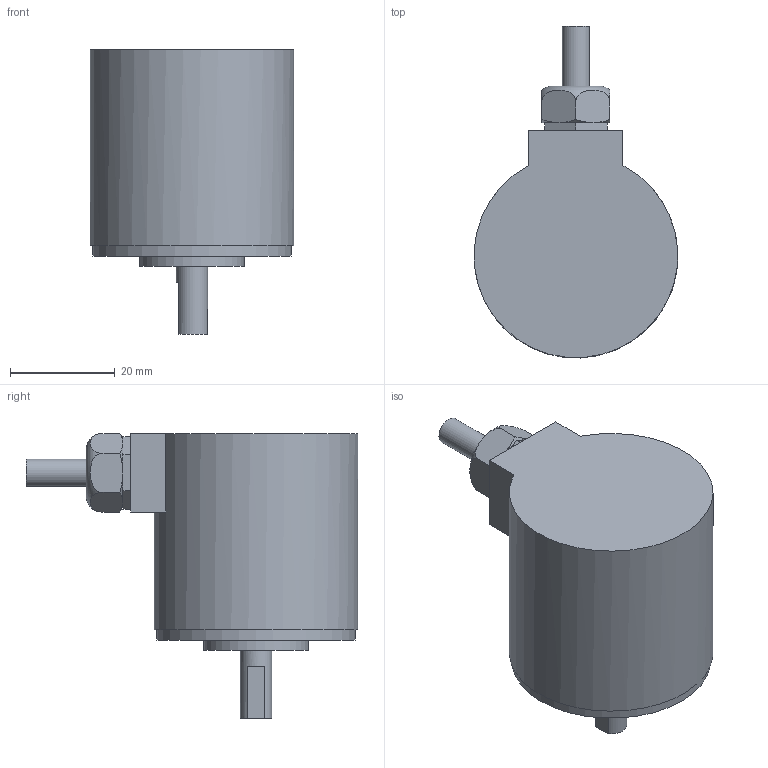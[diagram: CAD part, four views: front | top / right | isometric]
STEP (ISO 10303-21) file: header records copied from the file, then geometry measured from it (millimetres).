
FILE_DESCRIPTION(('OVF-2MC-600'),'2;1');
FILE_NAME('C:\Users\user\Documents\Inventor\配布用外径データ\OVF-2MC-600.stp','2019-05-09T11:15:37',('Nemicon Corp.'),('Nemicon Corp.'),'Autodesk Inventor 2011','Autodesk Inventor 2011','');
FILE_SCHEMA(('AUTOMOTIVE_DESIGN { 1 0 10303 214 1 1 1 1 }'));
Length unit declared in the file: millimetre
Products named in the file (1): OVF-2MC-600
Bounding box: 38.96 x 63.48 x 54.51 mm (x, y, z)
Volume: 50789.9 mm3; surface area: 8678.5 mm2
Topology: 1 solids, 1 shells, 55 faces, 128 edges, 80 vertices
Faces by surface type: plane 37, cone 9, cylinder 8, torus 1
Full cylindrical faces by diameter (mm): 2.459 x3, 5.2 x1, 6 x1, 20 x1, 38 x1, 39 x1
Entity records: 1556 total; most frequent: CARTESIAN_POINT 374, DIRECTION 242, ORIENTED_EDGE 222, EDGE_CURVE 111, AXIS2_PLACEMENT_3D 93, VERTEX_POINT 75, EDGE_LOOP 72, VECTOR 56
